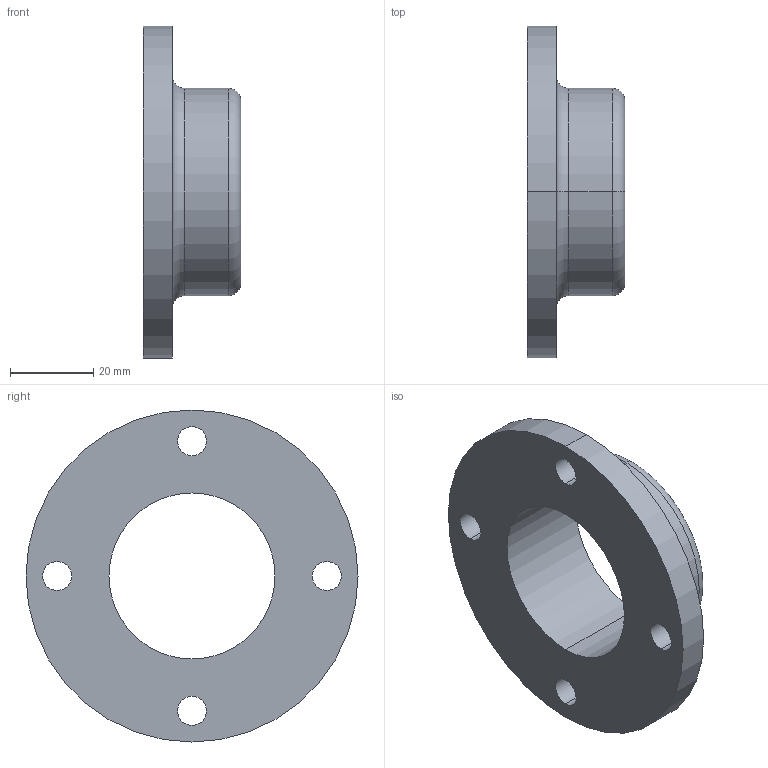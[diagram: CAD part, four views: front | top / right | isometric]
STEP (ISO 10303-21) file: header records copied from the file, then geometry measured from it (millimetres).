
FILE_DESCRIPTION (( 'STEP AP203' ), '1' );
FILE_NAME ('084.802.039.STEP', '2018-01-24T11:08:14', ( 'Localadmin' ), ( 'Microsoft' ), 'SwSTEP 2.0', 'SolidWorks 2016', '' );
FILE_SCHEMA (( 'CONFIG_CONTROL_DESIGN' ));
Length unit declared in the file: millimetre
Products named in the file (1): 084.802.039
Bounding box: 23.5 x 80 x 80 mm (x, y, z)
Volume: 36991.2 mm3; surface area: 14747.4 mm2
Topology: 1 solids, 1 shells, 21 faces, 50 edges, 32 vertices
Faces by surface type: cylinder 14, torus 4, plane 3
Entity records: 725 total; most frequent: DIRECTION 130, CARTESIAN_POINT 104, ORIENTED_EDGE 100, AXIS2_PLACEMENT_3D 58, EDGE_CURVE 50, CIRCLE 36, EDGE_LOOP 32, VERTEX_POINT 32
